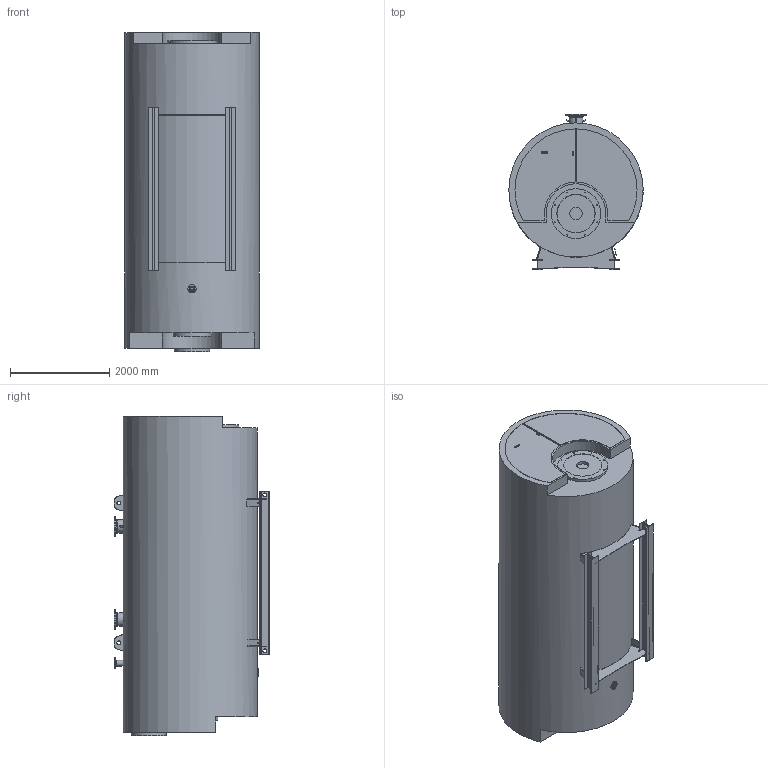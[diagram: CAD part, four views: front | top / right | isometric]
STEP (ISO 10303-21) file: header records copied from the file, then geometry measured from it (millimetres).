
FILE_DESCRIPTION(('TFLEX Exchange Step'),'2;1');
FILE_NAME('M62D008_7550654_H001.stp', '2024-08-09T13:47:32+03:00',('kort'),('Unknown organisation'),'TFLEX Exchange 2024.2','T-FLEX CAD','Unknown authorisation');
FILE_SCHEMA( ('AP242_MANAGED_MODEL_BASED_3D_ENGINEERING_MIM_LF {1 0 10303 442 1 1 4 }') );
Length unit declared in the file: millimetre
Products named in the file (1): 7550654_Grundkessel M62D008_H001
Bounding box: 2703.78 x 3130 x 6434.2 mm (x, y, z)
Volume: 35443845632.4 mm3; surface area: 77642605.3 mm2
Topology: 36 solids, 36 shells, 604 faces, 1591 edges, 1103 vertices
Faces by surface type: plane 342, cylinder 162, bspline 78, torus 14, cone 8
Full cylindrical faces by diameter (mm): 2.2 x4, 3.2 x4, 3.3 x4, 4 x4, 6.5 x4, 13 x4, 14 x8, 18 x16, 18.63 x2, 26 x24, 26.9 x2, 28.9 x2, 54.5 x2, 80 x6, 102 x2, 103.1 x1, 107.1 x1, 114.3 x1, 158 x1, 161 x1, 165 x2, 220 x1, 250 x1, 257 x2, 260.4 x2, 273 x2, 320 x2, 405 x2, 710 x1, 760 x1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
Entity records: 27276 total; most frequent: CARTESIAN_POINT 11637, ORIENTED_EDGE 3182, DIRECTION 2944, EDGE_CURVE 1591, VERTEX_POINT 1103, AXIS2_PLACEMENT_3D 1012, VECTOR 920, LINE 920
